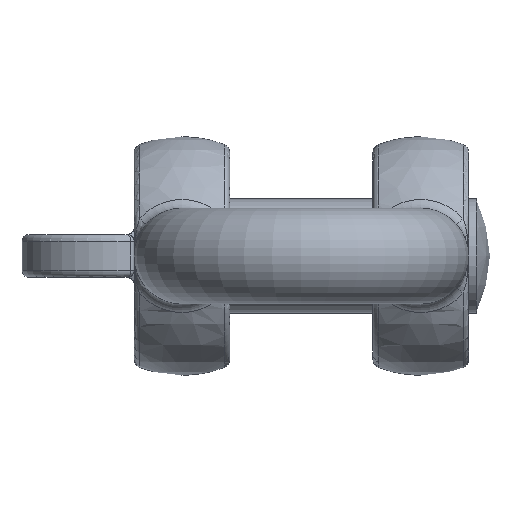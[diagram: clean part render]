
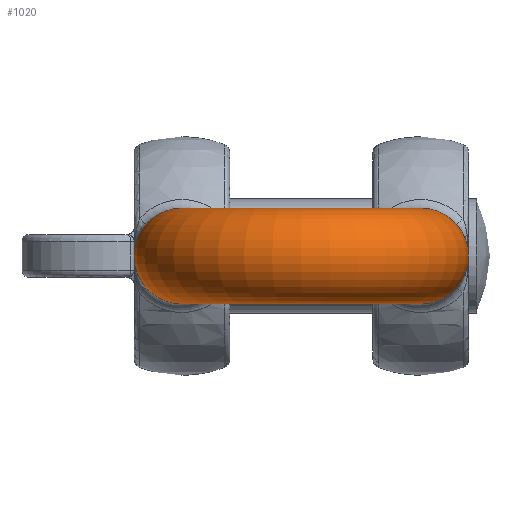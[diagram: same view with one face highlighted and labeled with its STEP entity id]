
A CAD part, front view. The second image highlights one B-rep face of the part: STEP entity #1020.
In plain terms, the highlighted toroidal (fillet/blend) face has major radius 50 mm and minor radius 20 mm.
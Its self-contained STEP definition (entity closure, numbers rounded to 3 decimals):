
#54=TOROIDAL_SURFACE('',#1175,50.,20.);
#182=FACE_OUTER_BOUND('',#253,.T.);
#253=EDGE_LOOP('',(#842,#843,#844,#845,#846,#847));
#381=CIRCLE('',#1173,20.);
#382=CIRCLE('',#1174,20.);
#383=CIRCLE('',#1176,30.);
#384=CIRCLE('',#1177,20.);
#385=CIRCLE('',#1178,20.);
#463=VERTEX_POINT('',#2537);
#464=VERTEX_POINT('',#2539);
#465=VERTEX_POINT('',#2543);
#466=VERTEX_POINT('',#2545);
#595=EDGE_CURVE('',#463,#464,#381,.T.);
#596=EDGE_CURVE('',#464,#463,#382,.T.);
#597=EDGE_CURVE('',#464,#465,#383,.T.);
#598=EDGE_CURVE('',#465,#466,#384,.T.);
#599=EDGE_CURVE('',#466,#465,#385,.T.);
#842=ORIENTED_EDGE('',*,*,#596,.F.);
#843=ORIENTED_EDGE('',*,*,#597,.T.);
#844=ORIENTED_EDGE('',*,*,#598,.T.);
#845=ORIENTED_EDGE('',*,*,#599,.T.);
#846=ORIENTED_EDGE('',*,*,#597,.F.);
#847=ORIENTED_EDGE('',*,*,#595,.F.);
#1020=ADVANCED_FACE('',(#182),#54,.T.);
#1173=AXIS2_PLACEMENT_3D('',#2540,#1373,#1374);
#1174=AXIS2_PLACEMENT_3D('',#2541,#1375,#1376);
#1175=AXIS2_PLACEMENT_3D('',#2542,#1377,#1378);
#1176=AXIS2_PLACEMENT_3D('',#2544,#1379,#1380);
#1177=AXIS2_PLACEMENT_3D('',#2546,#1381,#1382);
#1178=AXIS2_PLACEMENT_3D('',#2547,#1383,#1384);
#1373=DIRECTION('center_axis',(0.,1.,0.));
#1374=DIRECTION('ref_axis',(1.,0.,0.));
#1375=DIRECTION('center_axis',(0.,1.,0.));
#1376=DIRECTION('ref_axis',(1.,0.,0.));
#1377=DIRECTION('center_axis',(0.,0.,-1.));
#1378=DIRECTION('ref_axis',(-1.,0.,0.));
#1379=DIRECTION('center_axis',(0.,0.,1.));
#1380=DIRECTION('ref_axis',(-1.,0.,0.));
#1381=DIRECTION('center_axis',(0.,-1.,0.));
#1382=DIRECTION('ref_axis',(-1.,0.,0.));
#1383=DIRECTION('center_axis',(0.,-1.,0.));
#1384=DIRECTION('ref_axis',(-1.,0.,0.));
#2537=CARTESIAN_POINT('',(-70.,70.,0.));
#2539=CARTESIAN_POINT('',(-30.,70.,0.));
#2540=CARTESIAN_POINT('Origin',(-50.,70.,0.));
#2541=CARTESIAN_POINT('Origin',(-50.,70.,0.));
#2542=CARTESIAN_POINT('Origin',(0.,70.,0.));
#2543=CARTESIAN_POINT('',(30.,70.,0.));
#2544=CARTESIAN_POINT('Origin',(0.,70.,0.));
#2545=CARTESIAN_POINT('',(70.,70.,0.));
#2546=CARTESIAN_POINT('Origin',(50.,70.,0.));
#2547=CARTESIAN_POINT('Origin',(50.,70.,0.));
